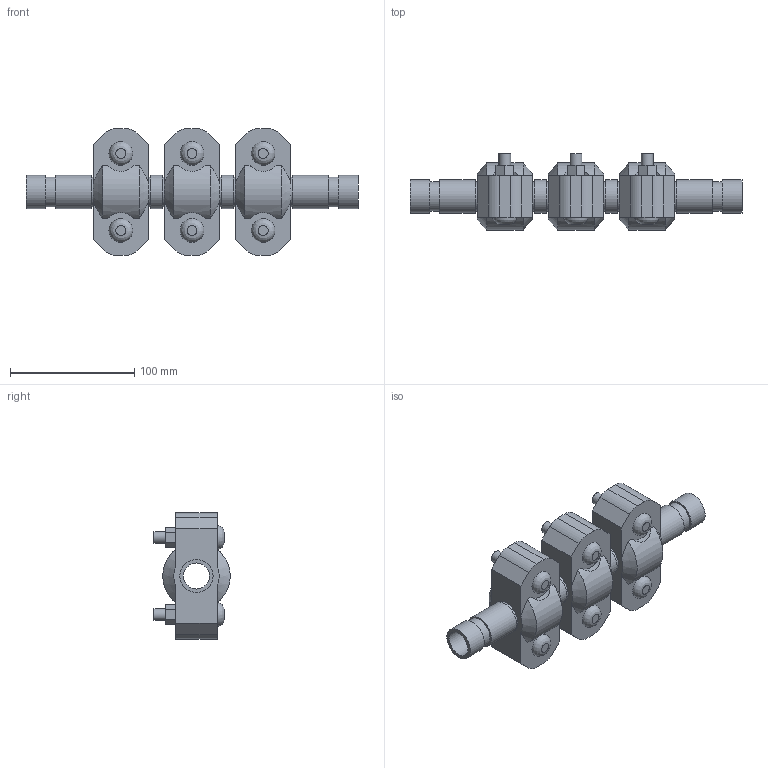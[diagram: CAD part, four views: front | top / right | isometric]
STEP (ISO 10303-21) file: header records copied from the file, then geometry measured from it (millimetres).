
FILE_DESCRIPTION(/* description */ ('VIC EXPANSION JOINT 3 COUPLINGS COMPRESSED STYLE 155 (OGS)','CAx-IF Rec.Pracs.---Representation and Presentation of Product Manufacturing Information (PMI)---4.0---2014-10-13'),/* implementation_level */ '2;1');
FILE_NAME(/* name */ 'C:\Users\kkamble\AppData\Roaming\Autodesk\ApplicationPlugins\Victaulic.Temp\A971\Victaulic_IPS_Expansion Joint_Compressed_3 Couplings_Style 155 (OGS)_0.75 (20).stp',/* time_stamp */ '2021-06-27T00:24:55+02:00',/* author */ ('kkamble'),/* organization */ ('Victaulic'),/* preprocessor_version */ 'ST-DEVELOPER v17.2',/* originating_system */ 'Autodesk Inventor 2019',/* authorisation */ '');
FILE_SCHEMA (('AP242_MANAGED_MODEL_BASED_3D_ENGINEERING_MIM_LF { 1 0 10303 442 1 1 4 }'));
Length unit declared in the file: inch
Products named in the file (4): 155-0.75; Nipple-0.75; Nipple-0.75_1; 077-0.75
Assembly tree (7 placements, depth 2):
  155-0.75
    Nipple-0.75  x2
    Nipple-0.75_1  x2
    077-0.75  x3
Bounding box: 266.7 x 61.1 x 101.6 mm (x, y, z)
Volume: 472535.1 mm3; surface area: 124233 mm2
Topology: 7 solids, 13 shells, 219 faces, 537 edges, 378 vertices
Faces by surface type: plane 126, cylinder 75, cone 12, bspline 6
Full cylindrical faces by diameter (mm): 9.525 x12, 11.43 x6, 20.93 x4, 23.825 x8, 26.67 x15
Entity records: 2875 total; most frequent: CARTESIAN_POINT 569, DIRECTION 459, ORIENTED_EDGE 398, EDGE_CURVE 199, AXIS2_PLACEMENT_3D 182, VERTEX_POINT 142, EDGE_LOOP 105, LINE 95
